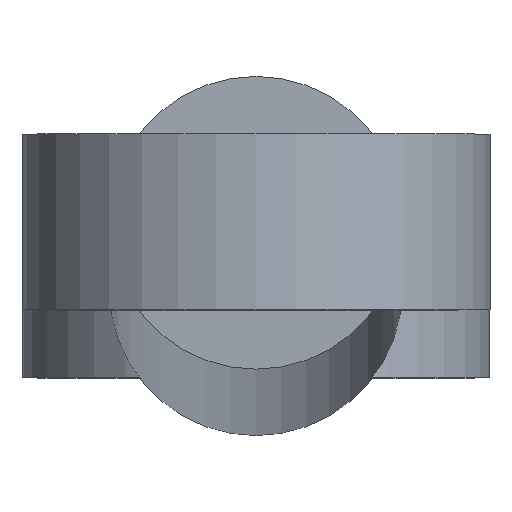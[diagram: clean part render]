
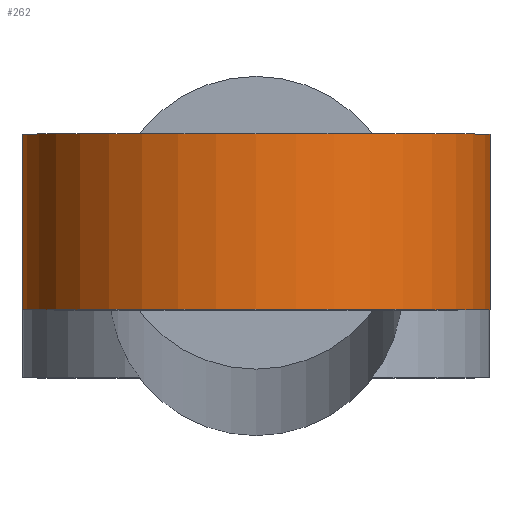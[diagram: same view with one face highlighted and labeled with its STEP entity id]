
A CAD part, top view. The second image highlights one B-rep face of the part: STEP entity #262.
In plain terms, the highlighted cylindrical face has radius 40 mm (diameter 80 mm), a partial arc.
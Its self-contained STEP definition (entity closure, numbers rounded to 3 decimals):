
#11 = EDGE_CURVE ( 'NONE', #215, #364, #51, .T. ) ;
#30 = CIRCLE ( 'NONE', #144, 40. ) ;
#32 = CARTESIAN_POINT ( 'NONE',  ( 0., 15., 3330. ) ) ;
#33 = CARTESIAN_POINT ( 'NONE',  ( 0., -15., 3330. ) ) ;
#39 = CARTESIAN_POINT ( 'NONE',  ( 0., 15., 3330. ) ) ;
#51 = LINE ( 'NONE', #318, #278 ) ;
#70 = DIRECTION ( 'NONE',  ( 0., -1., 0. ) ) ;
#73 = DIRECTION ( 'NONE',  ( 0., 0., -1. ) ) ;
#76 = DIRECTION ( 'NONE',  ( 0., 0., -1. ) ) ;
#104 = DIRECTION ( 'NONE',  ( 0., -1., 0. ) ) ;
#110 = CARTESIAN_POINT ( 'NONE',  ( -10., -15., 3291.27 ) ) ;
#117 = ORIENTED_EDGE ( 'NONE', *, *, #268, .T. ) ;
#137 = DIRECTION ( 'NONE',  ( 0., 0., -1. ) ) ;
#144 = AXIS2_PLACEMENT_3D ( 'NONE', #33, #246, #73 ) ;
#158 = VERTEX_POINT ( 'NONE', #240 ) ;
#164 = AXIS2_PLACEMENT_3D ( 'NONE', #32, #70, #137 ) ;
#172 = ORIENTED_EDGE ( 'NONE', *, *, #343, .F. ) ;
#192 = VECTOR ( 'NONE', #104, 1000. ) ;
#194 = CARTESIAN_POINT ( 'NONE',  ( 10., 15., 3291.27 ) ) ;
#215 = VERTEX_POINT ( 'NONE', #379 ) ;
#219 = VERTEX_POINT ( 'NONE', #344 ) ;
#220 = AXIS2_PLACEMENT_3D ( 'NONE', #39, #250, #76 ) ;
#221 = ORIENTED_EDGE ( 'NONE', *, *, #289, .F. ) ;
#232 = DIRECTION ( 'NONE',  ( 0., -1., 0. ) ) ;
#240 = CARTESIAN_POINT ( 'NONE',  ( 10., 15., 3291.27 ) ) ;
#246 = DIRECTION ( 'NONE',  ( 0., 1., 0. ) ) ;
#250 = DIRECTION ( 'NONE',  ( 0., 1., 0. ) ) ;
#262 = ADVANCED_FACE ( 'NONE', ( #358 ), #341, .T. ) ;
#265 = LINE ( 'NONE', #194, #192 ) ;
#268 = EDGE_CURVE ( 'NONE', #364, #219, #30, .T. ) ;
#278 = VECTOR ( 'NONE', #232, 1000. ) ;
#289 = EDGE_CURVE ( 'NONE', #158, #219, #265, .T. ) ;
#305 = EDGE_LOOP ( 'NONE', ( #117, #221, #172, #352 ) ) ;
#318 = CARTESIAN_POINT ( 'NONE',  ( -10., 15., 3291.27 ) ) ;
#341 = CYLINDRICAL_SURFACE ( 'NONE', #164, 40. ) ;
#343 = EDGE_CURVE ( 'NONE', #215, #158, #346, .T. ) ;
#344 = CARTESIAN_POINT ( 'NONE',  ( 10., -15., 3291.27 ) ) ;
#346 = CIRCLE ( 'NONE', #220, 40. ) ;
#352 = ORIENTED_EDGE ( 'NONE', *, *, #11, .T. ) ;
#358 = FACE_OUTER_BOUND ( 'NONE', #305, .T. ) ;
#364 = VERTEX_POINT ( 'NONE', #110 ) ;
#379 = CARTESIAN_POINT ( 'NONE',  ( -10., 15., 3291.27 ) ) ;
